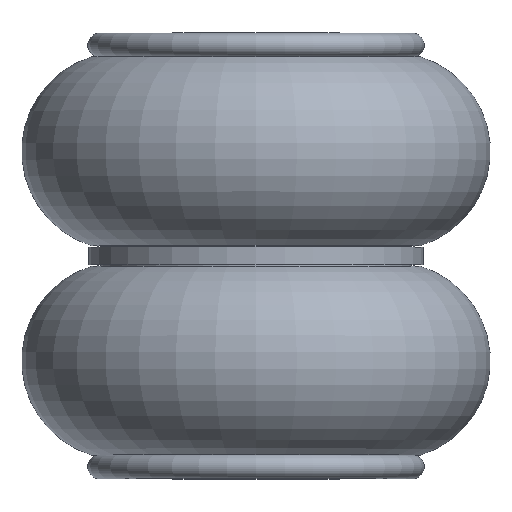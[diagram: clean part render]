
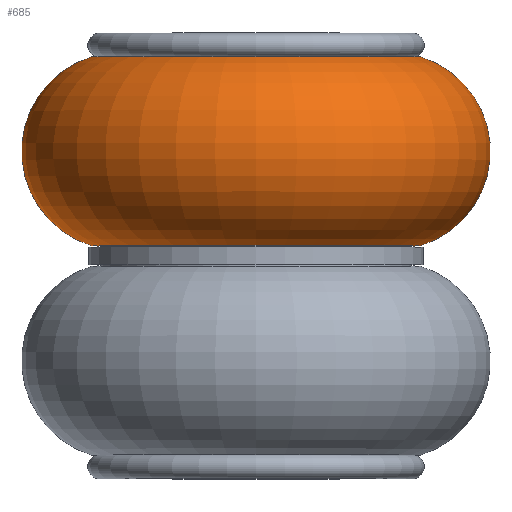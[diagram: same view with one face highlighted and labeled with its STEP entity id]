
A CAD part, top view. The second image highlights one B-rep face of the part: STEP entity #685.
In plain terms, the highlighted toroidal (fillet/blend) face has major radius 91.35 mm and minor radius 66.45 mm.
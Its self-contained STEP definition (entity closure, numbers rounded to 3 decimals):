
#63=CARTESIAN_POINT('',(0.,134.,0.));
#64=DIRECTION('',(0.,1.,0.));
#65=DIRECTION('',(-1.,0.,0.));
#66=AXIS2_PLACEMENT_3D('',#63,#64,#65);
#68=CARTESIAN_POINT('',(-91.35,70.5,0.));
#69=DIRECTION('',(0.,0.,1.));
#70=DIRECTION('',(-0.295,0.956,0.));
#71=AXIS2_PLACEMENT_3D('',#68,#69,#70);
#73=CARTESIAN_POINT('',(91.35,70.5,0.));
#74=DIRECTION('',(0.,0.,-1.));
#75=DIRECTION('',(0.295,0.956,0.));
#76=AXIS2_PLACEMENT_3D('',#73,#74,#75);
#88=CARTESIAN_POINT('',(0.,7.,0.));
#89=DIRECTION('',(0.,1.,0.));
#90=DIRECTION('',(-1.,0.,0.));
#91=AXIS2_PLACEMENT_3D('',#88,#89,#90);
#565=CARTESIAN_POINT('',(-110.929,134.,0.));
#566=CARTESIAN_POINT('',(-110.929,7.,0.));
#567=VERTEX_POINT('',#565);
#568=VERTEX_POINT('',#566);
#573=CARTESIAN_POINT('',(110.929,134.,0.));
#574=CARTESIAN_POINT('',(110.929,7.,0.));
#575=VERTEX_POINT('',#573);
#576=VERTEX_POINT('',#574);
#671=CARTESIAN_POINT('',(0.,70.5,0.));
#672=DIRECTION('',(0.,1.,0.));
#673=DIRECTION('',(1.,0.,0.));
#674=AXIS2_PLACEMENT_3D('',#671,#672,#673);
#675=TOROIDAL_SURFACE('',#674,91.35,66.45);
#677=ORIENTED_EDGE('',*,*,#676,.F.);
#678=ORIENTED_EDGE('',*,*,#659,.T.);
#680=ORIENTED_EDGE('',*,*,#679,.T.);
#682=ORIENTED_EDGE('',*,*,#681,.F.);
#683=EDGE_LOOP('',(#677,#678,#680,#682));
#684=FACE_OUTER_BOUND('',#683,.F.);
#685=ADVANCED_FACE('',(#684),#675,.T.);
#67=CIRCLE('',#66,110.929);
#72=CIRCLE('',#71,66.45);
#77=CIRCLE('',#76,66.45);
#92=CIRCLE('',#91,110.929);
#659=EDGE_CURVE('',#567,#575,#67,.T.);
#676=EDGE_CURVE('',#567,#568,#72,.T.);
#679=EDGE_CURVE('',#575,#576,#77,.T.);
#681=EDGE_CURVE('',#568,#576,#92,.T.);
